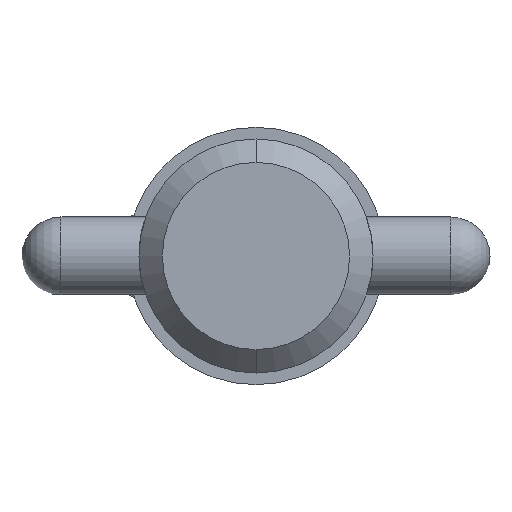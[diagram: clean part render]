
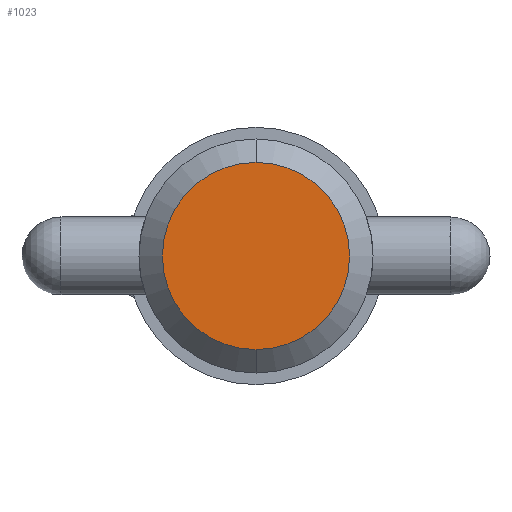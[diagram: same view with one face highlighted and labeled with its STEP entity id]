
A CAD part, left-side view. The second image highlights one B-rep face of the part: STEP entity #1023.
In plain terms, the highlighted planar face has unit normal (-1, 0, 0).
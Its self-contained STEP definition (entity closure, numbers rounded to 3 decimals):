
#69 = DIRECTION ( 'NONE',  ( -1., 0., 0. ) ) ;
#76 = CARTESIAN_POINT ( 'NONE',  ( 0., 0., -7.62 ) ) ;
#120 = AXIS2_PLACEMENT_3D ( 'NONE', #765, #342, #676 ) ;
#168 = AXIS2_PLACEMENT_3D ( 'NONE', #277, #180, #1000 ) ;
#180 = DIRECTION ( 'NONE',  ( 1., 0., 0. ) ) ;
#196 = EDGE_LOOP ( 'NONE', ( #953, #1034 ) ) ;
#277 = CARTESIAN_POINT ( 'NONE',  ( 0., 0., 0. ) ) ;
#314 = CIRCLE ( 'NONE', #120, 7.62 ) ;
#317 = EDGE_CURVE ( 'NONE', #417, #766, #314, .T. ) ;
#342 = DIRECTION ( 'NONE',  ( 1., 0., 0. ) ) ;
#372 = PLANE ( 'NONE',  #434 ) ;
#394 = EDGE_CURVE ( 'NONE', #766, #417, #397, .T. ) ;
#397 = CIRCLE ( 'NONE', #168, 7.62 ) ;
#417 = VERTEX_POINT ( 'NONE', #665 ) ;
#434 = AXIS2_PLACEMENT_3D ( 'NONE', #801, #69, #449 ) ;
#449 = DIRECTION ( 'NONE',  ( 0., 0., 1. ) ) ;
#665 = CARTESIAN_POINT ( 'NONE',  ( 0., 0., 7.62 ) ) ;
#676 = DIRECTION ( 'NONE',  ( 0., 0., -1. ) ) ;
#727 = FACE_OUTER_BOUND ( 'NONE', #196, .T. ) ;
#765 = CARTESIAN_POINT ( 'NONE',  ( 0., 0., 0. ) ) ;
#766 = VERTEX_POINT ( 'NONE', #76 ) ;
#801 = CARTESIAN_POINT ( 'NONE',  ( 0., 0., 0. ) ) ;
#953 = ORIENTED_EDGE ( 'NONE', *, *, #394, .F. ) ;
#1000 = DIRECTION ( 'NONE',  ( 0., 0., -1. ) ) ;
#1023 = ADVANCED_FACE ( 'NONE', ( #727 ), #372, .T. ) ;
#1034 = ORIENTED_EDGE ( 'NONE', *, *, #317, .F. ) ;
